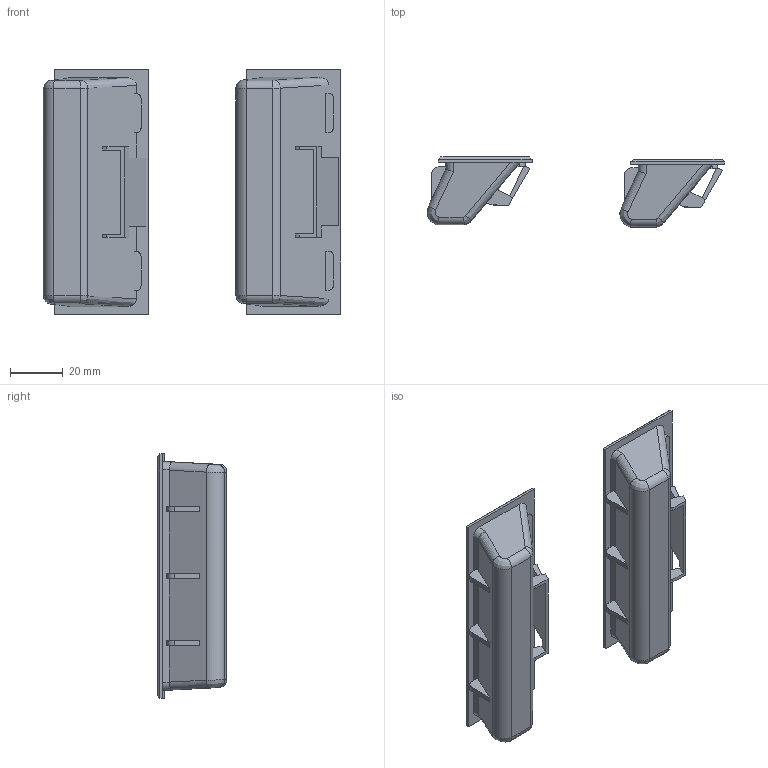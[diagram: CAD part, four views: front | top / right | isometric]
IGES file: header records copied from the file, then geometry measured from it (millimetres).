
Global section: file name: A-MP21_M; native system: Autodesk Inventor 2015; preprocessor: unknown; author: user; date: 20170718.100424; units: millimetre
Bounding box: 113.1 x 26.5 x 93.12 mm (x, y, z)
Volume: 32488.1 mm3; surface area: 34316.6 mm2
Topology: 2 solids, 2 shells, 192 faces, 500 edges, 312 vertices
Faces by surface type: bspline 192
